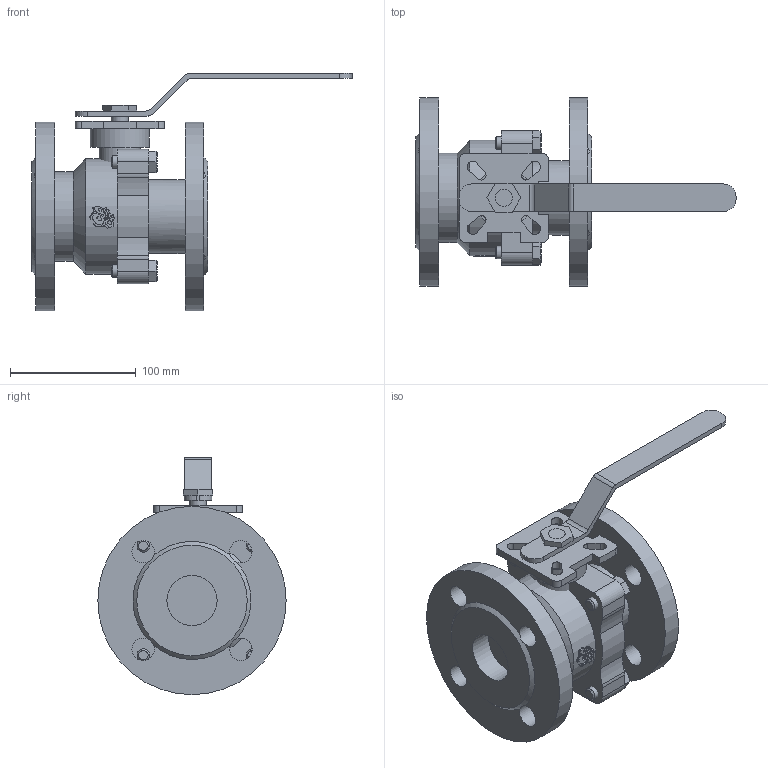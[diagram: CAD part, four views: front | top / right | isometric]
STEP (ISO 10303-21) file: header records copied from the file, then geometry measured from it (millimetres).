
FILE_DESCRIPTION(('STEP AP203'), '1');
FILE_NAME('3D_7528-040-40', '', ('UNSPECIFIED'), ('UNSPECIFIED'), 'C3D Converter', 'C3D Toolkit', '');
FILE_SCHEMA(('CONFIG_CONTROL_DESIGN'));
Length unit declared in the file: millimetre
Bounding box: 255 x 150 x 189 mm (x, y, z)
Volume: 1335139.3 mm3; surface area: 205858.1 mm2
Topology: 22 solids, 22 shells, 999 faces, 2901 edges, 1945 vertices
Faces by surface type: plane 920, cylinder 64, cone 11, torus 4
Full cylindrical faces by diameter (mm): 10 x4, 13.5 x1, 18 x8, 33 x1, 40 x2, 47 x1, 59 x1, 71 x1, 92 x1, 150 x2
Entity records: 42303 total; most frequent: CARTESIAN_POINT 9964, ORIENTED_EDGE 5726, DIRECTION 4219, EDGE_CURVE 2863, VERTEX_POINT 1944, LINE 1843, VECTOR 1843, AXIS2_PLACEMENT_3D 1188
